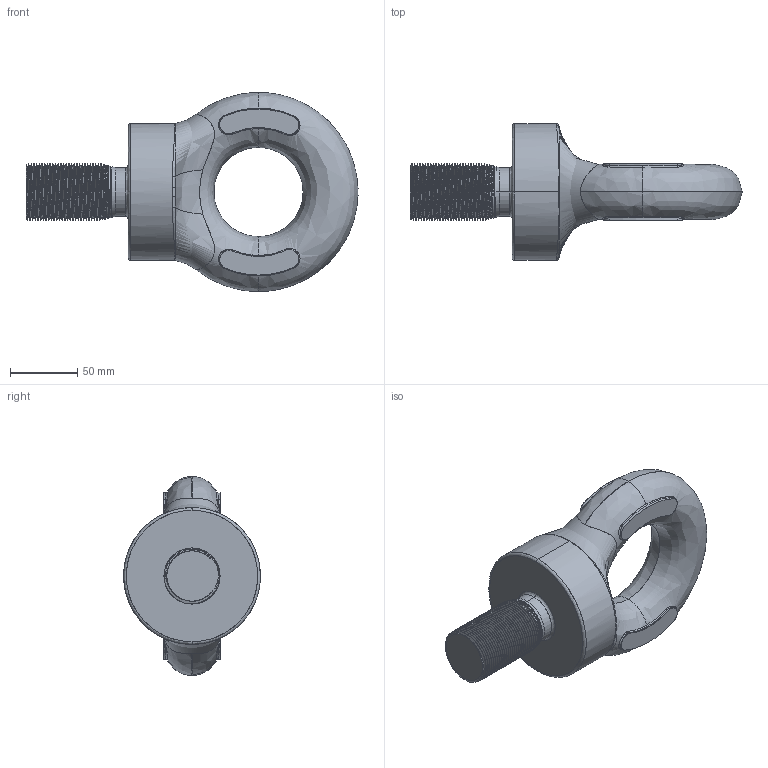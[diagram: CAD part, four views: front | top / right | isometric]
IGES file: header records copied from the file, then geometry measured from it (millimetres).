
Start section: SolidWorks IGES file using analytic representation for surfaces
Global section: file name: C:\Users\Brenton\Documents\Townley\Eye Bolts\Metric\EBMF42\EBMF42.IGS; native system: SolidWorks 2012; preprocessor: SolidWorks 2012; author: Brenton; date: 140228.135441; units: millimetre
Bounding box: 247.66 x 102 x 148.5 mm (x, y, z)
Surface area: 84377 mm2 (no closed solid volume)
Topology: 0 solids, 0 shells, 278 faces, 5728 edges, 5720 vertices
Faces by surface type: bspline 173, revolution 105
